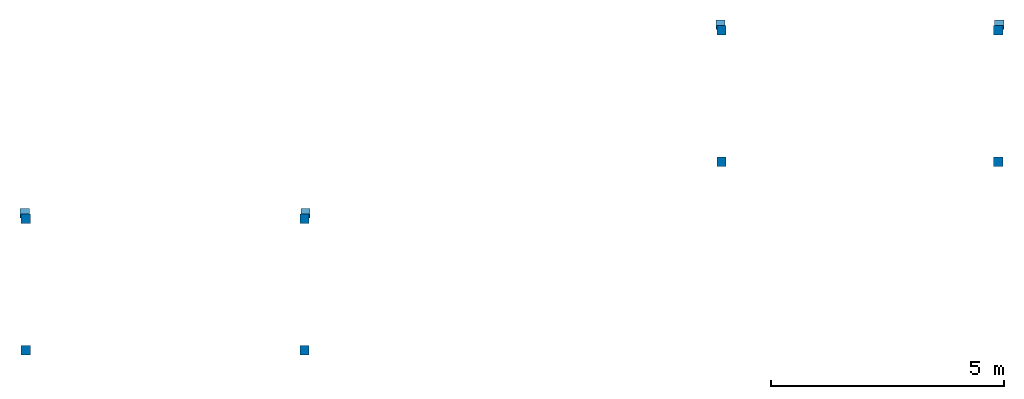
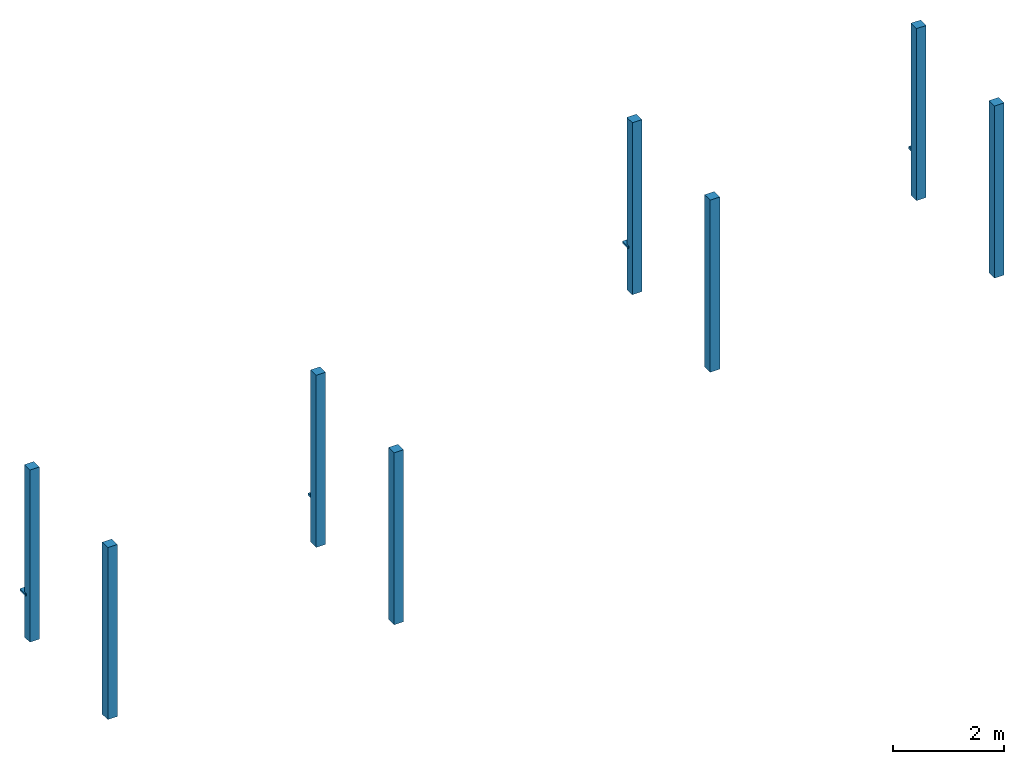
# One storey: 12 columns.
"""IFC2X3 building model written with IfcOpenShell, lengths in metres."""

from ifc_helpers import new_model, entity, si_unit, converted_unit, derived_unit, direction, frame, origin, origin_2d_with_axis, place, context, subcontext, project, spatial, rectangle, extrude, source, transform, mapped, material, type_object, type_shapes, element, save


model = new_model("IFC2X3")

# Units and contexts
model_context = context("Model", 3, precision=1e-05, world=origin(), true_north=direction((6.12303176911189e-17, 1.0)))
body_context = subcontext(model_context, "Body", "Model", "MODEL_VIEW")
ifc_project = project(units=[si_unit("LENGTHUNIT", "METRE"), si_unit("AREAUNIT", "SQUARE_METRE"), si_unit("VOLUMEUNIT", "CUBIC_METRE"), converted_unit("PLANEANGLEUNIT", "DEGREE", entity("IfcRatioMeasure", 0.0174532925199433), si_unit("PLANEANGLEUNIT", "RADIAN"), dimensions=[0, 0, 0, 0, 0, 0, 0]), si_unit("MASSUNIT", "GRAM", prefix="KILO"), derived_unit("MASSDENSITYUNIT", [(si_unit("MASSUNIT", "GRAM", prefix="KILO"), 1), (si_unit("LENGTHUNIT", "METRE"), -3)]), si_unit("TIMEUNIT", "SECOND"), si_unit("FREQUENCYUNIT", "HERTZ"), si_unit("THERMODYNAMICTEMPERATUREUNIT", "DEGREE_CELSIUS"), derived_unit("THERMALTRANSMITTANCEUNIT", [(si_unit("MASSUNIT", "GRAM", prefix="KILO"), 1), (si_unit("THERMODYNAMICTEMPERATUREUNIT", "KELVIN"), -1), (si_unit("TIMEUNIT", "SECOND"), -3)]), derived_unit("VOLUMETRICFLOWRATEUNIT", [(si_unit("LENGTHUNIT", "METRE"), 3), (si_unit("TIMEUNIT", "SECOND"), -1)]), si_unit("ELECTRICCURRENTUNIT", "AMPERE"), si_unit("ELECTRICVOLTAGEUNIT", "VOLT"), si_unit("POWERUNIT", "WATT"), si_unit("FORCEUNIT", "NEWTON", prefix="KILO"), si_unit("ILLUMINANCEUNIT", "LUX"), si_unit("LUMINOUSFLUXUNIT", "LUMEN"), si_unit("LUMINOUSINTENSITYUNIT", "CANDELA"), derived_unit("USERDEFINED", [(si_unit("MASSUNIT", "GRAM", prefix="KILO"), -1), (si_unit("LENGTHUNIT", "METRE"), -2), (si_unit("TIMEUNIT", "SECOND"), 3), (si_unit("LUMINOUSFLUXUNIT", "LUMEN"), 1)]), derived_unit("LINEARVELOCITYUNIT", [(si_unit("LENGTHUNIT", "METRE"), 1), (si_unit("TIMEUNIT", "SECOND"), -1)]), si_unit("PRESSUREUNIT", "PASCAL"), derived_unit("USERDEFINED", [(si_unit("LENGTHUNIT", "METRE"), -2), (si_unit("MASSUNIT", "GRAM", prefix="KILO"), 1), (si_unit("TIMEUNIT", "SECOND"), -2)])], contexts=[model_context])

# Site, building, storey
site_placement = place(None, origin())
site = spatial("IfcSite", under=ifc_project, at=site_placement, Name="Surface", CompositionType="ELEMENT")
building_placement = place(site_placement, origin())
building = spatial("IfcBuilding", under=site, at=building_placement, CompositionType="ELEMENT")
storey_placement = place(building_placement, frame((0.0, 0.0, -0.05)))
storey = spatial("IfcBuildingStorey", under=building, at=storey_placement, Name="TN", CompositionType="ELEMENT", Elevation=-0.05)

# Columns
ifc_material = material(Name="Béton - Béton coulé sur place")
column_type_1 = type_object("IfcColumnType", Name="20 X 20", PredefinedType="COLUMN")
shared_shape_1 = source(origin(), body_context, "Body", "SweptSolid", [
    extrude(rectangle(XDim=0.2, YDim=0.2, at=origin_2d_with_axis()), frame((0.0, 0.0, -0.05), z_axis=(0.0, 0.0, 1.0), x_axis=(0.0, -1.0, 0.0)), (0.0, 0.0, 1.0), 0.05),
])
type_shapes(column_type_1, [shared_shape_1])
column_1_placement = place(storey_placement, frame((86.7167857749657, 89.3975239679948, 0.05)))
element("IfcColumn", 1, at=column_1_placement, inside=storey, type_object=column_type_1, material=ifc_material, Name="M_Béton-Carré-Poteau:20 X 20", ObjectType="M_Béton-Carré-Poteau:20 X 20", context=body_context, shape_type="MappedRepresentation", body=[
    mapped(shared_shape_1, transform((0.0, 0.0, 0.0), scale=1.0)),
])
column_type_2 = type_object("IfcColumnType", Name="20 X 20", PredefinedType="COLUMN")
shared_shape_2 = source(origin(), body_context, "Body", "SweptSolid", [
    extrude(rectangle(XDim=0.2, YDim=0.2, at=origin_2d_with_axis()), frame((0.0, 0.0, -0.05), z_axis=(0.0, 0.0, 1.0), x_axis=(0.0, -1.0, 0.0)), (0.0, 0.0, 1.0), 0.05),
])
type_shapes(column_type_2, [shared_shape_2])
column_2_placement = place(storey_placement, frame((71.8446263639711, 85.3577566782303, 0.05)))
element("IfcColumn", 2, at=column_2_placement, inside=storey, type_object=column_type_2, material=ifc_material, Name="M_Béton-Carré-Poteau:20 X 20", ObjectType="M_Béton-Carré-Poteau:20 X 20", context=body_context, shape_type="MappedRepresentation", body=[
    mapped(shared_shape_2, transform((0.0, 0.0, 0.0), scale=1.0)),
])
column_type_3 = type_object("IfcColumnType", Name="20 X 20", PredefinedType="COLUMN")
shared_shape_3 = source(origin(), body_context, "Body", "SweptSolid", [
    extrude(rectangle(XDim=0.2, YDim=0.2, at=origin_2d_with_axis()), frame((0.0, 0.0, -0.05), z_axis=(0.0, 0.0, 1.0), x_axis=(0.0, -1.0, 0.0)), (0.0, 0.0, 1.0), 0.05),
])
type_shapes(column_type_3, [shared_shape_3])
for number, where, z_axis, x_axis in (
    (3, (65.8246263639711, 85.3577566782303, 0.05), (0.0, 0.0, 1.0), (-1.0, 0.0, 0.0)),
    (4, (80.7410189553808, 89.3975239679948, 0.05), (0.0, 0.0, 1.0), (-1.0, 0.0, 0.0)),
):
    element("IfcColumn", number, at=place(storey_placement, frame(where, z_axis=z_axis, x_axis=x_axis)), inside=storey, type_object=column_type_3, material=ifc_material, Name="M_Béton-Carré-Poteau:20 X 20", ObjectType="M_Béton-Carré-Poteau:20 X 20", context=body_context, shape_type="MappedRepresentation", body=[
        mapped(shared_shape_3, transform((0.0, 0.0, 0.0), scale=1.0)),
    ])
column_type_4 = type_object("IfcColumnType", Name="20 X 20", PredefinedType="COLUMN")
shared_shape_4 = source(origin(), body_context, "Body", "SweptSolid", [
    extrude(rectangle(XDim=0.2, YDim=0.2, at=origin_2d_with_axis()), frame((0.0, 0.0, -1.0), z_axis=(0.0, 0.0, 1.0), x_axis=(0.0, -1.0, 0.0)), (0.0, 0.0, 1.0), 3.8),
])
type_shapes(column_type_4, [shared_shape_4])
column_3_placement = place(storey_placement, frame((86.6967857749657, 89.2775239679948, 0.05)))
element("IfcColumn", 5, at=column_3_placement, inside=storey, type_object=column_type_4, material=ifc_material, Name="M_Béton-Carré-Poteau:20 X 20", ObjectType="M_Béton-Carré-Poteau:20 X 20", context=body_context, shape_type="MappedRepresentation", body=[
    mapped(shared_shape_4, transform((0.0, 0.0, 0.0), scale=1.0)),
])
column_type_5 = type_object("IfcColumnType", Name="20 X 20", PredefinedType="COLUMN")
shared_shape_5 = source(origin(), body_context, "Body", "SweptSolid", [
    extrude(rectangle(XDim=0.2, YDim=0.2, at=origin_2d_with_axis()), frame((0.0, 0.0, -1.0), z_axis=(0.0, 0.0, 1.0), x_axis=(0.0, -1.0, 0.0)), (0.0, 0.0, 1.0), 3.8),
])
type_shapes(column_type_5, [shared_shape_5])
for number, where in (
    (6, (71.8246263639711, 85.2377566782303, 0.05)),
    (7, (86.6967857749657, 86.4575239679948, 0.05)),
    (8, (71.8246263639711, 82.4177566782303, 0.05)),
):
    element("IfcColumn", number, at=place(storey_placement, frame(where)), inside=storey, type_object=column_type_5, material=ifc_material, Name="M_Béton-Carré-Poteau:20 X 20", ObjectType="M_Béton-Carré-Poteau:20 X 20", context=body_context, shape_type="MappedRepresentation", body=[
        mapped(shared_shape_5, transform((0.0, 0.0, 0.0), scale=1.0)),
    ])
column_type_6 = type_object("IfcColumnType", Name="20 X 20", PredefinedType="COLUMN")
shared_shape_6 = source(origin(), body_context, "Body", "SweptSolid", [
    extrude(rectangle(XDim=0.2, YDim=0.2, at=origin_2d_with_axis()), frame((0.0, 0.0, -1.0), z_axis=(0.0, 0.0, 1.0), x_axis=(0.0, -1.0, 0.0)), (0.0, 0.0, 1.0), 3.8),
])
type_shapes(column_type_6, [shared_shape_6])
for number, where, z_axis, x_axis in (
    (9, (65.8446263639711, 85.2377566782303, 0.05), (0.0, 0.0, 1.0), (-1.0, 0.0, 0.0)),
    (10, (65.8446263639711, 82.4177566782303, 0.05), (0.0, 0.0, 1.0), (-1.0, 0.0, 0.0)),
    (11, (80.7610189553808, 89.2775239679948, 0.05), (0.0, 0.0, 1.0), (-1.0, 0.0, 0.0)),
    (12, (80.7610189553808, 86.4575239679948, 0.05), (0.0, 0.0, 1.0), (-1.0, 0.0, 0.0)),
):
    element("IfcColumn", number, at=place(storey_placement, frame(where, z_axis=z_axis, x_axis=x_axis)), inside=storey, type_object=column_type_6, material=ifc_material, Name="M_Béton-Carré-Poteau:20 X 20", ObjectType="M_Béton-Carré-Poteau:20 X 20", context=body_context, shape_type="MappedRepresentation", body=[
        mapped(shared_shape_6, transform((0.0, 0.0, 0.0), scale=1.0)),
    ])

save(model, "model.ifc")
